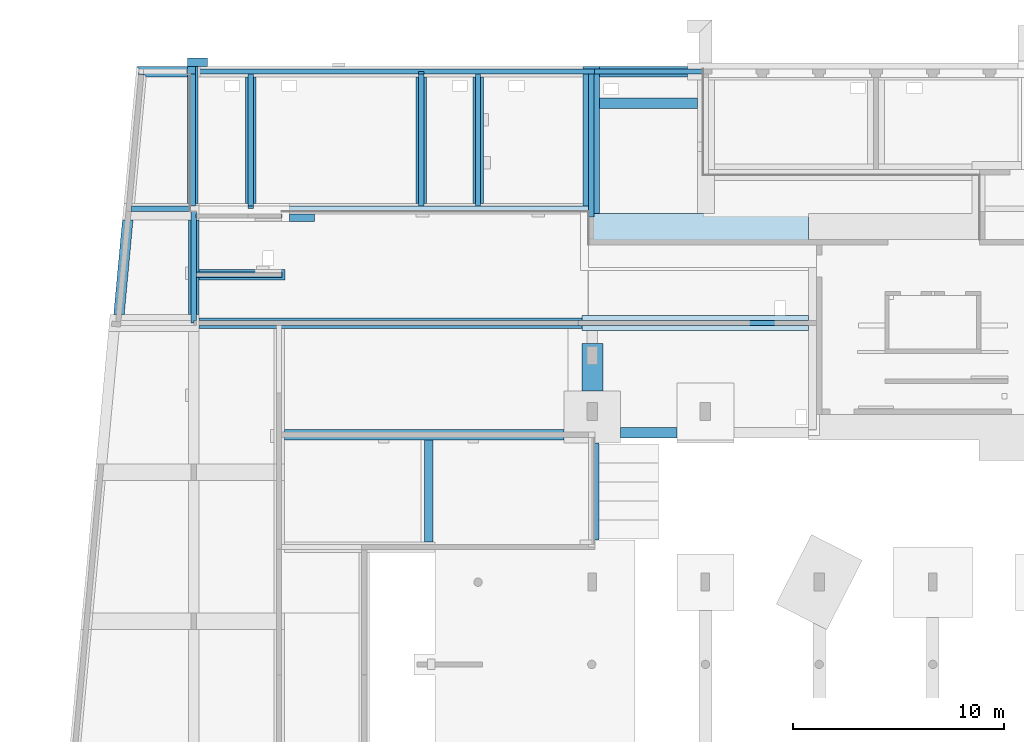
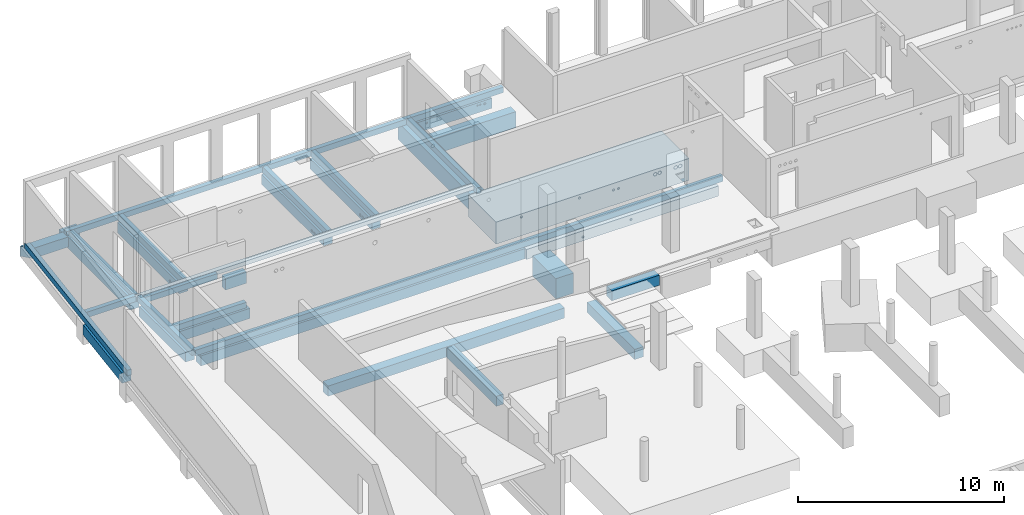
# One storey, part 3 of 60: 35 footings.
"""IFC2X3 building model written with IfcOpenShell, lengths in millimetres."""

from ifc_helpers import new_model, entity, si_unit, converted_unit, derived_unit, direction, frame, frame_2d, origin, place, context, subcontext, project, spatial, polyline, circle_curve, parameter, trimmed, segment, composite_curve, rectangle, outline, extrude, material, element, save


model = new_model("IFC2X3")

# Units and contexts
model_context = context("Model", 3, precision=0.01, world=origin(), true_north=direction((6.12303176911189e-17, 1.0)))
body_context = subcontext(model_context, "Body", "Model", "MODEL_VIEW")
ifc_project = project(units=[si_unit("LENGTHUNIT", "METRE", prefix="MILLI"), si_unit("AREAUNIT", "SQUARE_METRE"), si_unit("VOLUMEUNIT", "CUBIC_METRE"), converted_unit("PLANEANGLEUNIT", "DEGREE", entity("IfcRatioMeasure", 0.0174532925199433), si_unit("PLANEANGLEUNIT", "RADIAN"), dimensions=[0, 0, 0, 0, 0, 0, 0]), si_unit("MASSUNIT", "GRAM", prefix="KILO"), derived_unit("MASSDENSITYUNIT", [(si_unit("MASSUNIT", "GRAM", prefix="KILO"), 1), (si_unit("LENGTHUNIT", "METRE"), -3)]), si_unit("TIMEUNIT", "SECOND"), si_unit("FREQUENCYUNIT", "HERTZ"), si_unit("THERMODYNAMICTEMPERATUREUNIT", "DEGREE_CELSIUS"), derived_unit("THERMALTRANSMITTANCEUNIT", [(si_unit("MASSUNIT", "GRAM", prefix="KILO"), 1), (si_unit("THERMODYNAMICTEMPERATUREUNIT", "KELVIN"), -1), (si_unit("TIMEUNIT", "SECOND"), -3)]), derived_unit("VOLUMETRICFLOWRATEUNIT", [(si_unit("LENGTHUNIT", "METRE"), 3), (si_unit("TIMEUNIT", "SECOND"), -1)]), si_unit("ELECTRICCURRENTUNIT", "AMPERE"), si_unit("ELECTRICVOLTAGEUNIT", "VOLT"), si_unit("POWERUNIT", "WATT"), si_unit("FORCEUNIT", "NEWTON", prefix="KILO"), si_unit("ILLUMINANCEUNIT", "LUX"), si_unit("LUMINOUSFLUXUNIT", "LUMEN"), si_unit("LUMINOUSINTENSITYUNIT", "CANDELA"), derived_unit("USERDEFINED", [(si_unit("MASSUNIT", "GRAM", prefix="KILO"), -1), (si_unit("LENGTHUNIT", "METRE"), -2), (si_unit("TIMEUNIT", "SECOND"), 3), (si_unit("LUMINOUSFLUXUNIT", "LUMEN"), 1)]), derived_unit("LINEARVELOCITYUNIT", [(si_unit("LENGTHUNIT", "METRE"), 1), (si_unit("TIMEUNIT", "SECOND"), -1)]), si_unit("PRESSUREUNIT", "PASCAL"), derived_unit("USERDEFINED", [(si_unit("LENGTHUNIT", "METRE"), -2), (si_unit("MASSUNIT", "GRAM", prefix="KILO"), 1), (si_unit("TIMEUNIT", "SECOND"), -2)])], contexts=[model_context])

# Site, building, storey
site_placement = place(None, origin())
site = spatial("IfcSite", under=ifc_project, at=site_placement, Name="Default", CompositionType="ELEMENT")
building_placement = place(site_placement, origin())
building = spatial("IfcBuilding", under=site, at=building_placement, Name="niet gebruiken", CompositionType="ELEMENT")
storey_placement = place(building_placement, origin())
storey = spatial("IfcBuildingStorey", under=building, at=storey_placement, Name="00 begane grond", CompositionType="ELEMENT", Elevation=0.0)

# Footings
ifc_material = material(Name="NLRS_f2_beton ihwg")
footing_1_placement = place(storey_placement, origin())
element("IfcFooting", 1, at=footing_1_placement, inside=storey, material=ifc_material, Name="NLRS_16.12_SF_WPB_funderingsbalk ihwg recht_gen:500x600", ObjectType="NLRS_16.12_SF_WPB_funderingsbalk ihwg recht_gen:500x600", PredefinedType="FOOTING_BEAM", context=body_context, shape_type="SweptSolid", body=[
    extrude(rectangle(XDim=13275.0, YDim=499.999999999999, at=frame_2d((-124.457220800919, 149.999999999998), x_axis=(1.0, 0.0))), frame((19161.9572208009, 35731.0, -1002.0)), (0.0, 0.0, 1.0), 599.999999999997),
])
footing_2_placement = place(storey_placement, origin())
element("IfcFooting", 2, at=footing_2_placement, inside=storey, material=ifc_material, Name="NLRS_16.12_SF_WPB_funderingsbalk ihwg recht_gen:500x600", ObjectType="NLRS_16.12_SF_WPB_funderingsbalk ihwg recht_gen:500x600", PredefinedType="FOOTING_BEAM", context=body_context, shape_type="SweptSolid", body=[
    extrude(outline(polyline([(-867.223115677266, -250.0), (1095.1211039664, -250.0), (1095.1211039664, 250.0), (-1323.01909225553, 250.0), (-867.223115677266, -250.0)])), frame((6709.87889603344, 53131.0, -1002.0)), (0.0, 0.0, 1.0), 599.999999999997),
])
footing_3_placement = place(storey_placement, origin())
element("IfcFooting", 3, at=footing_3_placement, inside=storey, material=ifc_material, Name="NLRS_16.12_SF_WPB_funderingsbalk ihwg recht_gen:500x600", ObjectType="NLRS_16.12_SF_WPB_funderingsbalk ihwg recht_gen:500x600", PredefinedType="FOOTING_BEAM", context=body_context, shape_type="SweptSolid", body=[
    extrude(outline(polyline([(-3005.0, -300.0), (3005.0, -300.0), (3005.0, 300.0), (-3005.0, 300.0), (-3005.0, -300.0)]), holes=[composite_curve([segment(trimmed(circle_curve(frame_2d((2120.00063320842, 93.0), x_axis=(1.0, 0.0)), 79.999999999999), [parameter(0.0)], [parameter(180.000000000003)], True, "PARAMETER"), False, "CONTINUOUS"), segment(trimmed(circle_curve(frame_2d((2120.00063320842, 93.0), x_axis=(-1.0, 0.0)), 79.999999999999), [parameter(0.0)], [parameter(180.000000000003)], True, "PARAMETER"), False, "CONTINUOUS")], self_intersect=False), composite_curve([segment(trimmed(circle_curve(frame_2d((1870.0006332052, 93.0), x_axis=(1.0, 0.0)), 79.9999999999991), [parameter(0.0)], [parameter(180.000000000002)], True, "PARAMETER"), False, "CONTINUOUS"), segment(trimmed(circle_curve(frame_2d((1870.0006332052, 93.0), x_axis=(-1.0, 0.0)), 79.9999999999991), [parameter(0.0)], [parameter(180.000000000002)], True, "PARAMETER"), False, "CONTINUOUS")], self_intersect=False)]), frame((18650.0, 49876.0, -792.0), z_axis=(1.0, 0.0, 0.0), x_axis=(0.0, -1.0, 0.0)), (0.0, 0.0, 1.0), 499.999999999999),
])
footing_4_placement = place(storey_placement, origin())
element("IfcFooting", 4, at=footing_4_placement, inside=storey, material=ifc_material, Name="NLRS_16.12_SF_WPB_funderingsbalk ihwg recht_gen:500x600", ObjectType="NLRS_16.12_SF_WPB_funderingsbalk ihwg recht_gen:500x600", PredefinedType="FOOTING_BEAM", context=body_context, shape_type="SweptSolid", body=[
    extrude(outline(polyline([(-3005.0, -300.0), (3005.0, -300.0), (3005.0, 300.0), (-3005.0, 300.0), (-3005.0, -300.0)]), holes=[composite_curve([segment(trimmed(circle_curve(frame_2d((2370.0, 93.0), x_axis=(-1.0, 0.0)), 80.0), [parameter(180.0)], [parameter(360.0)], True, "PARAMETER"), False, "CONTINUOUS"), segment(trimmed(circle_curve(frame_2d((2370.0, 93.0), x_axis=(-1.0, 0.0)), 80.0), [parameter(3.05333249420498e-13)], [parameter(180.0)], True, "PARAMETER"), False, "CONTINUOUS")], self_intersect=False), composite_curve([segment(trimmed(circle_curve(frame_2d((2120.0, 93.0), x_axis=(-1.0, 0.0)), 80.0), [parameter(180.0)], [parameter(360.0)], True, "PARAMETER"), False, "CONTINUOUS"), segment(trimmed(circle_curve(frame_2d((2120.0, 93.0), x_axis=(-1.0, 0.0)), 80.0), [parameter(3.05333249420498e-13)], [parameter(180.0)], True, "PARAMETER"), False, "CONTINUOUS")], self_intersect=False)]), frame((10550.0, 49876.0, -792.0), z_axis=(1.0, 0.0, 0.0), x_axis=(0.0, -1.0, 0.0)), (0.0, 0.0, 1.0), 499.999999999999),
])
footing_5_placement = place(storey_placement, origin())
element("IfcFooting", 5, at=footing_5_placement, inside=storey, material=ifc_material, Name="NLRS_16.12_SF_WPB_funderingsbalk ihwg recht_gen:500x600", ObjectType="NLRS_16.12_SF_WPB_funderingsbalk ihwg recht_gen:500x600", PredefinedType="FOOTING_BEAM", context=body_context, shape_type="SweptSolid", body=[
    extrude(outline(polyline([(-3005.0, -300.0), (3005.0, -300.0), (3005.0, 300.0), (-3005.0, 300.0), (-3005.0, -300.0)]), holes=[composite_curve([segment(trimmed(circle_curve(frame_2d((-2120.00063320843, -93.0), x_axis=(-1.0, 0.0)), 79.9999999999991), [parameter(0.0)], [parameter(180.000000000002)], True, "PARAMETER"), False, "CONTINUOUS"), segment(trimmed(circle_curve(frame_2d((-2120.00063320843, -93.0), x_axis=(1.0, 0.0)), 79.9999999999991), [parameter(0.0)], [parameter(180.000000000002)], True, "PARAMETER"), False, "CONTINUOUS")], self_intersect=False), composite_curve([segment(trimmed(circle_curve(frame_2d((-1870.0006332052, -93.0), x_axis=(-1.0, 0.0)), 79.999999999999), [parameter(0.0)], [parameter(180.000000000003)], True, "PARAMETER"), False, "CONTINUOUS"), segment(trimmed(circle_curve(frame_2d((-1870.0006332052, -93.0), x_axis=(1.0, 0.0)), 79.999999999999), [parameter(0.0)], [parameter(180.000000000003)], True, "PARAMETER"), False, "CONTINUOUS")], self_intersect=False)]), frame((21350.0, 49876.0, -792.0), z_axis=(1.0, 0.0, 0.0), x_axis=(0.0, 1.0, 0.0)), (0.0, 0.0, 1.0), 499.999999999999),
])
footing_6_placement = place(storey_placement, origin())
element("IfcFooting", 6, at=footing_6_placement, inside=storey, material=ifc_material, Name="NLRS_16.12_SF_WPB_funderingsbalk ihwg recht_gen:500x600", ObjectType="NLRS_16.12_SF_WPB_funderingsbalk ihwg recht_gen:500x600", PredefinedType="FOOTING_BEAM", context=body_context, shape_type="SweptSolid", body=[
    extrude(rectangle(XDim=4069.99999999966, YDim=499.999999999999, at=frame_2d((332.292260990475, 83.3333333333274), x_axis=(1.0, 0.0))), frame((10717.2922609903, 43569.3333333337, -1002.0), z_axis=(0.0, 0.0, 1.0), x_axis=(-1.0, 0.0, 0.0)), (0.0, 0.0, 1.0), 599.999999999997),
])
footing_7_placement = place(storey_placement, origin())
element("IfcFooting", 7, at=footing_7_placement, inside=storey, material=ifc_material, Name="NLRS_16.12_SF_WPB_funderingsbalk ihwg recht_gen:500x600", ObjectType="NLRS_16.12_SF_WPB_funderingsbalk ihwg recht_gen:500x600", PredefinedType="FOOTING_BEAM", context=body_context, shape_type="SweptSolid", body=[
    extrude(rectangle(XDim=4484.99999999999, YDim=500.0, at=frame_2d((153.055863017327, 0.0), x_axis=(1.0, 0.0))), frame((8100.0, 43675.4441369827, -1002.0), z_axis=(0.0, 0.0, 1.0), x_axis=(0.0, 1.0, 0.0)), (0.0, 0.0, 1.0), 599.999999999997),
])
footing_8_placement = place(storey_placement, origin())
element("IfcFooting", 8, at=footing_8_placement, inside=storey, material=ifc_material, Name="NLRS_16.12_SF_WPB_opstort ihwg recht_gen:250x332", ObjectType="NLRS_16.12_SF_WPB_opstort ihwg recht_gen:250x332", PredefinedType="FOOTING_BEAM", context=body_context, shape_type="SweptSolid", body=[
    extrude(rectangle(XDim=1.31306089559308, YDim=249.999999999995, at=frame_2d((0.0, 4.33431068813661e-12), x_axis=(1.0, 0.0))), frame((7930.65653044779, 46621.0, -402.0), z_axis=(0.0, 0.0, 1.0), x_axis=(-1.0, 0.0, 0.0)), (0.0, 0.0, 1.0), 242.0),
    extrude(outline(polyline([(-1398.16241267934, -125.0), (1386.5755322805, -125.0), (1386.5755322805, 125.0), (-1374.98865188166, 125.0), (-1398.16241267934, -125.0)])), frame((6523.42446771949, 46621.0, -402.0)), (0.0, 0.0, 1.0), 331.999999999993),
])
footing_9_placement = place(storey_placement, origin())
element("IfcFooting", 9, at=footing_9_placement, inside=storey, material=ifc_material, Name="NLRS_16.12_SF_WPB_opstort ihwg recht_gen:250x390", ObjectType="NLRS_16.12_SF_WPB_opstort ihwg recht_gen:250x390", PredefinedType="FOOTING_BEAM", context=body_context, shape_type="SweptSolid", body=[
    extrude(outline(polyline([(63.8000000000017, 2366.5), (121.799999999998, 2366.5), (121.799999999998, 2616.49999999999), (63.7999999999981, 2616.49999999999), (63.7999999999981, 2491.5), (-268.199999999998, 2491.5), (-268.199999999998, -3768.49999999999), (-26.2000000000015, -3768.49999999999), (63.8000000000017, -3768.49999999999), (63.8000000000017, -3643.5), (63.8000000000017, 2366.5)])), frame((18775.0, 50514.5, -428.200000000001), z_axis=(1.0, 0.0, 0.0), x_axis=(0.0, 0.0, -1.0)), (0.0, 0.0, 1.0), 250.000000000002),
])
footing_10_placement = place(storey_placement, origin())
element("IfcFooting", 10, at=footing_10_placement, inside=storey, material=ifc_material, Name="NLRS_16.12_SF_WPB_opstort ihwg recht_gen:250x390", ObjectType="NLRS_16.12_SF_WPB_opstort ihwg recht_gen:250x390", PredefinedType="FOOTING_BEAM", context=body_context, shape_type="SweptSolid", body=[
    extrude(outline(polyline([(96.3636363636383, 2198.27615050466), (154.363636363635, 2198.27615050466), (154.363636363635, 2325.25732272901), (96.3636363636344, 2325.25732272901), (96.3636363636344, 2323.27615050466), (-235.636363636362, 2323.27615050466), (-235.636363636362, 2303.27615050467), (-235.636363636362, -3936.72384949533), (6.36363636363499, -3936.72384949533), (6.36363636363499, -4061.72384949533), (96.3636363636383, -4061.72384949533), (96.3636363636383, 2198.27615050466)])), frame((10675.0, 50682.7238494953, -395.636363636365), z_axis=(1.0, 0.0, 0.0), x_axis=(0.0, 0.0, -1.0)), (0.0, 0.0, 1.0), 250.000000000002),
])
footing_11_placement = place(storey_placement, origin())
element("IfcFooting", 11, at=footing_11_placement, inside=storey, material=ifc_material, Name="NLRS_16.12_SF_WPB_opstort ihwg recht_gen:250x390", ObjectType="NLRS_16.12_SF_WPB_opstort ihwg recht_gen:250x390", PredefinedType="FOOTING_BEAM", context=body_context, shape_type="SweptSolid", body=[
    extrude(rectangle(XDim=249.999999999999, YDim=6260.0, at=frame_2d((-2.16715534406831e-12, 1001.66666666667), x_axis=(1.0, 0.0))), frame((21600.0, 48874.3333333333, -492.0)), (0.0, 0.0, 1.0), 332.0),
])
footing_12_placement = place(storey_placement, origin())
element("IfcFooting", 12, at=footing_12_placement, inside=storey, material=ifc_material, Name="NLRS_16.12_SF_WPB_opstort ihwg recht_gen:250x242", ObjectType="NLRS_16.12_SF_WPB_opstort ihwg recht_gen:250x242", PredefinedType="FOOTING_BEAM", context=body_context, shape_type="SweptSolid", body=[
    extrude(rectangle(XDim=6259.99999999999, YDim=250.000000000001, at=frame_2d((432.142857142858, -17.6695627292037), x_axis=(1.0, 0.0))), frame((8037.3304372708, 49443.8571428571, -402.0), z_axis=(0.0, 0.0, 1.0), x_axis=(0.0, 1.0, 0.0)), (0.0, 0.0, 1.0), 241.999999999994),
])
footing_13_placement = place(storey_placement, origin())
element("IfcFooting", 13, at=footing_13_placement, inside=storey, material=ifc_material, Name="NLRS_16.12_SF_WPB_opstort ihwg recht_gen:200x332", ObjectType="NLRS_16.12_SF_WPB_opstort ihwg recht_gen:200x332", PredefinedType="FOOTING_BEAM", context=body_context, shape_type="SweptSolid", body=[
    extrude(rectangle(XDim=4097.30036665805, YDim=200.000000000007, at=frame_2d((672.116727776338, -1.75802483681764e-10), x_axis=(1.0, 0.0))), frame((9569.23345555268, 46266.0, -402.0)), (0.0, 0.0, 1.0), 331.999999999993),
])
footing_14_placement = place(storey_placement, origin())
element("IfcFooting", 14, at=footing_14_placement, inside=storey, material=ifc_material, Name="NLRS_16.12_SF_WPB_funderingsbalk ihwg recht_gen:500x600", ObjectType="NLRS_16.12_SF_WPB_funderingsbalk ihwg recht_gen:500x600", PredefinedType="FOOTING_BEAM", context=body_context, shape_type="SweptSolid", body=[
    extrude(rectangle(XDim=2675.0, YDim=499.999999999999, at=frame_2d((-2.1600499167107e-12, 0.0), x_axis=(1.0, 0.0))), frame((29712.5, 35981.0, -1002.0)), (0.0, 0.0, 1.0), 599.999999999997),
])
footing_15_placement = place(storey_placement, origin())
element("IfcFooting", 15, at=footing_15_placement, inside=storey, material=ifc_material, Name="NLRS_16.12_SF_WPB_funderingsbalk ihwg recht_gen:800x1000", ObjectType="NLRS_16.12_SF_WPB_funderingsbalk ihwg recht_gen:800x1000", PredefinedType="FOOTING_BEAM", context=body_context, shape_type="SweptSolid", body=[
    extrude(rectangle(XDim=800.0, YDim=6999.99999999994, at=frame_2d((-133.333333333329, -581.490240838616), x_axis=(1.0, 0.0))), frame((27108.3333333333, 50462.4902408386, -1492.0)), (0.0, 0.0, 1.0), 999.999999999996),
])
footing_16_placement = place(storey_placement, origin())
element("IfcFooting", 16, at=footing_16_placement, inside=storey, material=ifc_material, Name="NLRS_16.12_SF_WPB_funderingsbalk ihwg recht_gen:500x600", ObjectType="NLRS_16.12_SF_WPB_funderingsbalk ihwg recht_gen:500x600", PredefinedType="FOOTING_BEAM", context=body_context, shape_type="SweptSolid", body=[
    extrude(outline(polyline([(-2090.0, -300.0), (2090.0, -300.0), (2090.0, 300.0), (-2090.0, 300.0), (-2090.0, -300.0)]), holes=[composite_curve([segment(trimmed(circle_curve(frame_2d((-1285.50000000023, 142.0), x_axis=(1.0, 0.0)), 40.0), [parameter(180.0)], [parameter(360.0)], True, "PARAMETER"), False, "CONTINUOUS"), segment(trimmed(circle_curve(frame_2d((-1285.50000000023, 142.0), x_axis=(1.0, 0.0)), 40.0), [parameter(4.07110999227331e-13)], [parameter(180.0)], True, "PARAMETER"), False, "CONTINUOUS")], self_intersect=False), composite_curve([segment(trimmed(circle_curve(frame_2d((-1435.50000000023, 142.0), x_axis=(1.0, 0.0)), 40.0), [parameter(180.0)], [parameter(360.0)], True, "PARAMETER"), False, "CONTINUOUS"), segment(trimmed(circle_curve(frame_2d((-1435.50000000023, 142.0), x_axis=(1.0, 0.0)), 40.0), [parameter(4.07110999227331e-13)], [parameter(180.0)], True, "PARAMETER"), False, "CONTINUOUS")], self_intersect=False), composite_curve([segment(trimmed(circle_curve(frame_2d((-1684.99847981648, 112.0), x_axis=(1.0, 0.0)), 62.5), [parameter(180.0)], [parameter(360.0)], True, "PARAMETER"), False, "CONTINUOUS"), segment(trimmed(circle_curve(frame_2d((-1684.99847981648, 112.0), x_axis=(1.0, 0.0)), 62.5), [parameter(3.56222124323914e-13)], [parameter(180.0)], True, "PARAMETER"), False, "CONTINUOUS")], self_intersect=False), composite_curve([segment(trimmed(circle_curve(frame_2d((1565.0, 112.0), x_axis=(1.0, 0.0)), 55.0), [parameter(180.0)], [parameter(360.0)], True, "PARAMETER"), False, "CONTINUOUS"), segment(trimmed(circle_curve(frame_2d((1565.0, 112.0), x_axis=(1.0, 0.0)), 55.0), [parameter(4.07110999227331e-13)], [parameter(180.0)], True, "PARAMETER"), False, "CONTINUOUS")], self_intersect=False)]), frame((29465.0, 52881.0, -792.0), z_axis=(0.0, 1.0, 0.0), x_axis=(-1.0, 0.0, 0.0)), (0.0, 0.0, 1.0), 499.999999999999),
])
footing_17_placement = place(storey_placement, origin())
element("IfcFooting", 17, at=footing_17_placement, inside=storey, material=ifc_material, Name="NLRS_16.12_SF_WPB_funderingsbalk ihwg recht_gen:2700x1300", ObjectType="NLRS_16.12_SF_WPB_funderingsbalk ihwg recht_gen:2700x1300", PredefinedType="FOOTING_BEAM", context=body_context, shape_type="SweptSolid", body=[
    extrude(outline(polyline([(-5412.49999999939, -650.0), (5412.49999999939, -650.0), (5412.49999999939, 650.0), (-5412.49999999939, 650.0), (-5412.49999999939, -650.0)]), holes=[composite_curve([segment(trimmed(circle_curve(frame_2d((-4912.60998566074, 372.0), x_axis=(-1.0, 0.0)), 100.0), [parameter(4.07110999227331e-13)], [parameter(180.0)], True, "PARAMETER"), False, "CONTINUOUS"), segment(trimmed(circle_curve(frame_2d((-4912.60998566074, 372.0), x_axis=(-1.0, 0.0)), 100.0), [parameter(180.0)], [parameter(360.0)], True, "PARAMETER"), False, "CONTINUOUS")], self_intersect=False), composite_curve([segment(trimmed(circle_curve(frame_2d((737.512485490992, 462.0), x_axis=(-1.0, 0.0)), 62.5), [parameter(3.56222124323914e-13)], [parameter(180.0)], True, "PARAMETER"), False, "CONTINUOUS"), segment(trimmed(circle_curve(frame_2d((737.512485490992, 462.0), x_axis=(-1.0, 0.0)), 62.5), [parameter(180.0)], [parameter(360.0)], True, "PARAMETER"), False, "CONTINUOUS")], self_intersect=False), composite_curve([segment(trimmed(circle_curve(frame_2d((3987.49999999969, 462.0), x_axis=(-1.0, 0.0)), 62.5), [parameter(3.56222124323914e-13)], [parameter(180.0)], True, "PARAMETER"), False, "CONTINUOUS"), segment(trimmed(circle_curve(frame_2d((3987.49999999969, 462.0), x_axis=(-1.0, 0.0)), 62.5), [parameter(180.0)], [parameter(360.0)], True, "PARAMETER"), False, "CONTINUOUS")], self_intersect=False), composite_curve([segment(trimmed(circle_curve(frame_2d((-3762.62331262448, 372.0), x_axis=(-1.0, 0.0)), 100.0), [parameter(4.07110999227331e-13)], [parameter(180.0)], True, "PARAMETER"), False, "CONTINUOUS"), segment(trimmed(circle_curve(frame_2d((-3762.62331262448, 372.0), x_axis=(-1.0, 0.0)), 100.0), [parameter(180.0)], [parameter(360.0)], True, "PARAMETER"), False, "CONTINUOUS")], self_intersect=False), composite_curve([segment(trimmed(circle_curve(frame_2d((-3512.62331262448, 372.0), x_axis=(-1.0, 0.0)), 100.0), [parameter(4.07110999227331e-13)], [parameter(180.0)], True, "PARAMETER"), False, "CONTINUOUS"), segment(trimmed(circle_curve(frame_2d((-3512.62331262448, 372.0), x_axis=(-1.0, 0.0)), 100.0), [parameter(180.0)], [parameter(360.0)], True, "PARAMETER"), False, "CONTINUOUS")], self_intersect=False), composite_curve([segment(trimmed(circle_curve(frame_2d((-4662.62331262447, 372.0), x_axis=(-1.0, 0.0)), 100.0), [parameter(4.07110999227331e-13)], [parameter(180.0)], True, "PARAMETER"), False, "CONTINUOUS"), segment(trimmed(circle_curve(frame_2d((-4662.62331262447, 372.0), x_axis=(-1.0, 0.0)), 100.0), [parameter(180.0)], [parameter(360.0)], True, "PARAMETER"), False, "CONTINUOUS")], self_intersect=False), composite_curve([segment(trimmed(circle_curve(frame_2d((-1447.48629808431, 252.0), x_axis=(-1.0, 0.0)), 62.5), [parameter(3.56222124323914e-13)], [parameter(180.0)], True, "PARAMETER"), False, "CONTINUOUS"), segment(trimmed(circle_curve(frame_2d((-1447.48629808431, 252.0), x_axis=(-1.0, 0.0)), 62.5), [parameter(180.0)], [parameter(360.0)], True, "PARAMETER"), False, "CONTINUOUS")], self_intersect=False), composite_curve([segment(trimmed(circle_curve(frame_2d((-1172.49999999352, 252.0), x_axis=(-1.0, 0.0)), 62.5), [parameter(3.56222124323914e-13)], [parameter(180.0)], True, "PARAMETER"), False, "CONTINUOUS"), segment(trimmed(circle_curve(frame_2d((-1172.49999999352, 252.0), x_axis=(-1.0, 0.0)), 62.5), [parameter(180.0)], [parameter(360.0)], True, "PARAMETER"), False, "CONTINUOUS")], self_intersect=False)]), frame((31887.4999999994, 43681.0, -1142.0), z_axis=(0.0, 1.0, 0.0), x_axis=(-1.0, 0.0, 0.0)), (0.0, 0.0, 1.0), 2700.0),
])
footing_18_placement = place(storey_placement, origin())
element("IfcFooting", 18, at=footing_18_placement, inside=storey, material=ifc_material, Name="NLRS_16.12_SF_WPB_opstort ihwg recht_gen:250x332", ObjectType="NLRS_16.12_SF_WPB_opstort ihwg recht_gen:250x332", PredefinedType="FOOTING_BEAM", context=body_context, shape_type="SweptSolid", body=[
    extrude(rectangle(XDim=5160.00000000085, YDim=250.000000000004, at=frame_2d((-2.04636307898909e-12, -4.33431068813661e-12), x_axis=(1.0, 0.0))), frame((29700.0, 53131.0, -492.0)), (0.0, 0.0, 1.0), 331.999999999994),
])
footing_19_placement = place(storey_placement, origin())
element("IfcFooting", 19, at=footing_19_placement, inside=storey, material=ifc_material, Name="NLRS_16.12_SF_WPB_opstort ihwg recht_gen:250x332", ObjectType="NLRS_16.12_SF_WPB_opstort ihwg recht_gen:250x332", PredefinedType="FOOTING_BEAM", context=body_context, shape_type="SweptSolid", body=[
    extrude(rectangle(XDim=6774.99999999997, YDim=250.000000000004, at=frame_2d((-624.499999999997, 25.0000000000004), x_axis=(1.0, 0.0))), frame((26950.0, 48994.0, -492.0), z_axis=(0.0, 0.0, 1.0), x_axis=(0.0, -1.0, 0.0)), (0.0, 0.0, 1.0), 331.999999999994),
])
footing_20_placement = place(storey_placement, origin())
element("IfcFooting", 20, at=footing_20_placement, inside=storey, material=ifc_material, Name="NLRS_16.12_SF_WPB_opstort ihwg recht_gen:250x332", ObjectType="NLRS_16.12_SF_WPB_opstort ihwg recht_gen:250x332", PredefinedType="FOOTING_BEAM", context=body_context, shape_type="SweptSolid", body=[
    extrude(outline(polyline([(-6822.6747762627, -139.821898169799), (5094.86784208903, -139.821898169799), (5094.86784208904, 96.9483958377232), (5026.63635815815, 90.6236754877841), (5024.82375976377, 110.178101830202), (-6720.31266251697, 110.178101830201), (-6698.20836332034, -128.284478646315), (-6822.6747762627, -139.821898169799)])), frame((4998.71846912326, 46324.5436802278, -402.0), z_axis=(0.0, 0.0, 1.0), x_axis=(-0.0922993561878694, -0.995731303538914, 0.0)), (0.0, 0.0, 1.0), 331.999999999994),
])
footing_21_placement = place(storey_placement, origin())
element("IfcFooting", 21, at=footing_21_placement, inside=storey, material=ifc_material, Name="NLRS_16.12_SF_WPB_opstort ihwg recht_gen:250x332", ObjectType="NLRS_16.12_SF_WPB_opstort ihwg recht_gen:250x332", PredefinedType="FOOTING_BEAM", context=body_context, shape_type="SweptSolid", body=[
    extrude(rectangle(XDim=29574.9999999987, YDim=250.000000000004, at=frame_2d((7287.49999999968, 27.7777777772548), x_axis=(1.0, 0.0))), frame((15600.0, 41158.2222222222, -402.0)), (0.0, 0.0, 1.0), 331.999999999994),
])
footing_22_placement = place(storey_placement, origin())
element("IfcFooting", 22, at=footing_22_placement, inside=storey, material=ifc_material, Name="NLRS_16.12_SF_WPB_funderingsbalk ihwg recht_gen:500x600", ObjectType="NLRS_16.12_SF_WPB_funderingsbalk ihwg recht_gen:500x600", PredefinedType="FOOTING_BEAM", context=body_context, shape_type="SweptSolid", body=[
    extrude(rectangle(XDim=4619.0000000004, YDim=499.999999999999, at=frame_2d((-2.04636307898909e-12, 2.1600499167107e-12), x_axis=(1.0, 0.0))), frame((27100.0, 33190.5000000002, -1002.0), z_axis=(0.0, 0.0, 1.0), x_axis=(0.0, -1.0, 0.0)), (0.0, 0.0, 1.0), 599.999999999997),
])
footing_23_placement = place(storey_placement, origin())
element("IfcFooting", 23, at=footing_23_placement, inside=storey, material=ifc_material, Name="NLRS_16.12_SF_WPB_funderingsbalk ihwg recht_gen:1000x1200", ObjectType="NLRS_16.12_SF_WPB_funderingsbalk ihwg recht_gen:1000x1200", PredefinedType="FOOTING_BEAM", context=body_context, shape_type="SweptSolid", body=[
    extrude(rectangle(XDim=2248.46048239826, YDim=999.999999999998, at=frame_2d((-2.1600499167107e-12, 2.18847162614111e-12), x_axis=(1.0, 0.0))), frame((27025.0, 39096.2302411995, -1602.0), z_axis=(0.0, 0.0, 1.0), x_axis=(0.0, 1.0, 0.0)), (0.0, 0.0, 1.0), 1200.0),
])
footing_24_placement = place(storey_placement, origin())
element("IfcFooting", 24, at=footing_24_placement, inside=storey, material=ifc_material, Name="NLRS_16.12_SF_WPB_funderingsbalk ihwg recht_gen:700x600", ObjectType="NLRS_16.12_SF_WPB_funderingsbalk ihwg recht_gen:700x600", PredefinedType="FOOTING_BEAM", context=body_context, shape_type="SweptSolid", body=[
    extrude(outline(polyline([(-7831.25000000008, -300.0), (2193.75000000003, -300.0), (2693.75000000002, -300.0), (2943.75000000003, -300.0), (2943.75000000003, 300.0), (2693.75000000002, 300.0), (2193.75000000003, 300.0), (-7831.25000000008, 300.0), (-7831.25000000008, -300.0)]), holes=[composite_curve([segment(trimmed(circle_curve(frame_2d((-2931.25354709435, 22.0), x_axis=(-1.0, 0.0)), 62.4999999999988), [parameter(0.0)], [parameter(180.000000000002)], True, "PARAMETER"), False, "CONTINUOUS"), segment(trimmed(circle_curve(frame_2d((-2931.25354709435, 22.0), x_axis=(1.0, 0.0)), 62.4999999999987), [parameter(0.0)], [parameter(180.000000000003)], True, "PARAMETER"), False, "CONTINUOUS")], self_intersect=False), composite_curve([segment(trimmed(circle_curve(frame_2d((-231.253547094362, -63.0), x_axis=(-1.0, 0.0)), 62.4999999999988), [parameter(0.0)], [parameter(180.000000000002)], True, "PARAMETER"), False, "CONTINUOUS"), segment(trimmed(circle_curve(frame_2d((-231.253547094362, -63.0), x_axis=(1.0, 0.0)), 62.4999999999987), [parameter(0.0)], [parameter(180.000000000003)], True, "PARAMETER"), False, "CONTINUOUS")], self_intersect=False)]), frame((29468.7499999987, 40836.0, -702.0), z_axis=(0.0, 1.0, 0.0), x_axis=(-1.0, 0.0, 0.0)), (0.0, 0.0, 1.0), 700.000000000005),
])
footing_25_placement = place(storey_placement, origin())
element("IfcFooting", 25, at=footing_25_placement, inside=storey, material=ifc_material, Name="NLRS_16.12_SF_WPB_funderingsbalk ihwg recht_gen:500x600", ObjectType="NLRS_16.12_SF_WPB_funderingsbalk ihwg recht_gen:500x600", PredefinedType="FOOTING_BEAM", context=body_context, shape_type="SweptSolid", body=[
    extrude(rectangle(XDim=18174.9999999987, YDim=499.999999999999, at=frame_2d((1762.49999999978, 83.3333333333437), x_axis=(1.0, 0.0))), frame((15675.0, 41102.6666666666, -1002.0)), (0.0, 0.0, 1.0), 599.999999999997),
])
footing_26_placement = place(storey_placement, origin())
element("IfcFooting", 26, at=footing_26_placement, inside=storey, material=ifc_material, Name="NLRS_16.12_SF_WPB_opstort ihwg recht_gen:250x332", ObjectType="NLRS_16.12_SF_WPB_opstort ihwg recht_gen:250x332", PredefinedType="FOOTING_BEAM", context=body_context, shape_type="SweptSolid", body=[
    extrude(outline(polyline([(64.4818181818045, 2336.81818181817), (96.7818181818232, 2336.81818181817), (96.7818181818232, 2446.81818181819), (-153.218181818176, 2446.81818181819), (-153.218181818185, -2718.18181818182), (-153.218181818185, -2843.18181818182), (-28.2181818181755, -2843.18181818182), (-28.2181818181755, -2718.18181818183), (96.7818181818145, -2718.18181818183), (96.7818181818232, 2136.81818181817), (64.4818181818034, 2136.81818181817), (64.4818181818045, 2336.81818181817)])), frame((8128.21818181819, 44029.1818181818, -402.0)), (0.0, 0.0, 1.0), 331.999999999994),
])
footing_27_placement = place(storey_placement, origin())
element("IfcFooting", 27, at=footing_27_placement, inside=storey, material=ifc_material, Name="NLRS_16.12_SF_WPB_funderingsbalk ihwg enkele sponning_gen:500x700/125x90", ObjectType="NLRS_16.12_SF_WPB_funderingsbalk ihwg enkele sponning_gen:500x700/125x90", PredefinedType="FOOTING_BEAM", context=body_context, shape_type="SweptSolid", body=[
    extrude(outline(polyline([(-306.428571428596, -238.571428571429), (68.5714285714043, -238.571428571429), (68.5714285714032, -148.571428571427), (88.5714285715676, -148.571428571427), (193.571428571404, -148.571428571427), (193.571428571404, 461.42857142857), (-306.428571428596, 461.42857142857), (-306.428571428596, -238.571428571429)])), frame((8111.42857142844, 46871.0, -640.571428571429), z_axis=(0.0, 1.0, 0.0), x_axis=(1.0, 0.0, 0.0)), (0.0, 0.0, 1.0), 6509.99999999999),
])
footing_28_placement = place(storey_placement, origin())
element("IfcFooting", 28, at=footing_28_placement, inside=storey, material=ifc_material, Name="NLRS_16.12_SF_WPB_opstort ihwg recht_gen:250x332", ObjectType="NLRS_16.12_SF_WPB_opstort ihwg recht_gen:250x332", PredefinedType="FOOTING_BEAM", context=body_context, shape_type="SweptSolid", body=[
    extrude(outline(polyline([(-10840.9259259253, -160.888888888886), (8099.07407407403, -160.888888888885), (8099.07407407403, -70.8888888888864), (8489.07407407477, -70.8888888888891), (8489.07407407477, 171.111111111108), (-10840.9259259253, 171.111111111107), (-10840.9259259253, -160.888888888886)])), frame((16279.0740740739, 53006.0, -331.111111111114), z_axis=(0.0, 1.0, 0.0), x_axis=(-1.0, 0.0, 0.0)), (0.0, 0.0, 1.0), 250.000000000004),
])
footing_29_placement = place(storey_placement, origin())
element("IfcFooting", 29, at=footing_29_placement, inside=storey, material=ifc_material, Name="NLRS_16.12_SF_WPB_funderingsbalk ihwg recht_gen:500x600", ObjectType="NLRS_16.12_SF_WPB_funderingsbalk ihwg recht_gen:500x600", PredefinedType="FOOTING_BEAM", context=body_context, shape_type="SweptSolid", body=[
    extrude(outline(polyline([(-2228.93982851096, -250.0), (2275.28735010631, -250.0), (2228.93982851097, 250.0), (-2275.28735010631, 250.0), (-2228.93982851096, -250.0)])), frame((4752.46215278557, 43828.5, -1002.0), z_axis=(0.0, 0.0, 1.0), x_axis=(0.0922993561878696, 0.995731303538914, 0.0)), (0.0, 0.0, 1.0), 599.999999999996),
])
footing_30_placement = place(storey_placement, origin())
element("IfcFooting", 30, at=footing_30_placement, inside=storey, material=ifc_material, Name="NLRS_16.12_SF_WPB_opstort ihwg recht_gen:250x332", ObjectType="NLRS_16.12_SF_WPB_opstort ihwg recht_gen:250x332", PredefinedType="FOOTING_BEAM", context=body_context, shape_type="SweptSolid", body=[
    extrude(rectangle(XDim=4052.30036665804, YDim=249.999999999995, at=frame_2d((0.0, -4.32720526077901e-12), x_axis=(1.0, 0.0))), frame((10263.850183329, 43486.0, -402.0)), (0.0, 0.0, 1.0), 331.999999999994),
])
footing_31_placement = place(storey_placement, origin())
element("IfcFooting", 31, at=footing_31_placement, inside=storey, material=ifc_material, Name="NLRS_16.12_SF_WPB_opstort ihwg recht_gen:250x242", ObjectType="NLRS_16.12_SF_WPB_opstort ihwg recht_gen:250x242", PredefinedType="FOOTING_BEAM", context=body_context, shape_type="SweptSolid", body=[
    extrude(rectangle(XDim=18918.6869391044, YDim=250.000000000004, at=frame_2d((1643.32609996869, -17.8571428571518), x_axis=(1.0, 0.0))), frame((15747.3304304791, 46638.8571428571, -402.0)), (0.0, 0.0, 1.0), 241.999999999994),
])
footing_32_placement = place(storey_placement, origin())
element("IfcFooting", 32, at=footing_32_placement, inside=storey, material=ifc_material, Name="NLRS_16.12_SF_WPB_funderingsbalk ihwg recht_gen:400x600", ObjectType="NLRS_16.12_SF_WPB_funderingsbalk ihwg recht_gen:400x600", PredefinedType="FOOTING_BEAM", context=body_context, shape_type="SweptSolid", body=[
    extrude(rectangle(XDim=949.999999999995, YDim=400.000000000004, at=frame_2d((-5.00000000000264, 39.9999999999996), x_axis=(1.0, 0.0))), frame((8285.0, 53541.0, -1092.0)), (0.0, 0.0, 1.0), 599.999999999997),
])
footing_33_placement = place(storey_placement, origin())
element("IfcFooting", 33, at=footing_33_placement, inside=storey, material=ifc_material, Name="NLRS_16.12_SF_WPB_funderingsbalk ihwg recht_gen:350x700", ObjectType="NLRS_16.12_SF_WPB_funderingsbalk ihwg recht_gen:350x700", PredefinedType="FOOTING_BEAM", context=body_context, shape_type="SweptSolid", body=[
    extrude(rectangle(XDim=1179.99999999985, YDim=349.999999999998, at=frame_2d((-1.08002495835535e-12, 4.33431068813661e-12), x_axis=(1.0, 0.0))), frame((13240.0, 46196.0, -1102.0)), (0.0, 0.0, 1.0), 699.999999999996),
])
footing_34_placement = place(storey_placement, origin())
element("IfcFooting", 34, at=footing_34_placement, inside=storey, material=ifc_material, Name="NLRS_16.12_SF_WPB_funderingsbalk ihwg recht_gen:500x950", ObjectType="NLRS_16.12_SF_WPB_funderingsbalk ihwg recht_gen:500x950", PredefinedType="FOOTING_BEAM", context=body_context, shape_type="SweptSolid", body=[
    extrude(rectangle(XDim=4650.0, YDim=499.999999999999, at=frame_2d((0.0, 4.32009983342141e-12), x_axis=(1.0, 0.0))), frame((29700.0, 51625.4707225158, -1492.0)), (0.0, 0.0, 1.0), 949.999999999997),
])
footing_35_placement = place(storey_placement, origin())
element("IfcFooting", 35, at=footing_35_placement, inside=storey, material=ifc_material, Name="NLRS_16.12_SF_WPB_funderingsbalk ihwg recht_gen:400x600", ObjectType="NLRS_16.12_SF_WPB_funderingsbalk ihwg recht_gen:400x600", PredefinedType="FOOTING_BEAM", context=body_context, shape_type="SweptSolid", body=[
    extrude(rectangle(XDim=4830.00000000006, YDim=400.0, at=frame_2d((2.04636307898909e-12, 1.09423581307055e-12), x_axis=(1.0, 0.0))), frame((19250.0, 33216.0, -1002.0), z_axis=(0.0, 0.0, 1.0), x_axis=(0.0, -1.0, 0.0)), (0.0, 0.0, 1.0), 599.999999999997),
])

save(model, "model.ifc")
